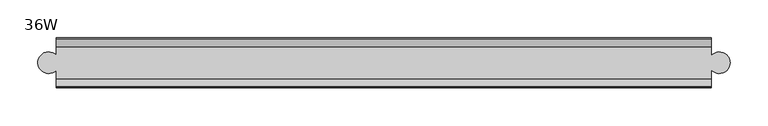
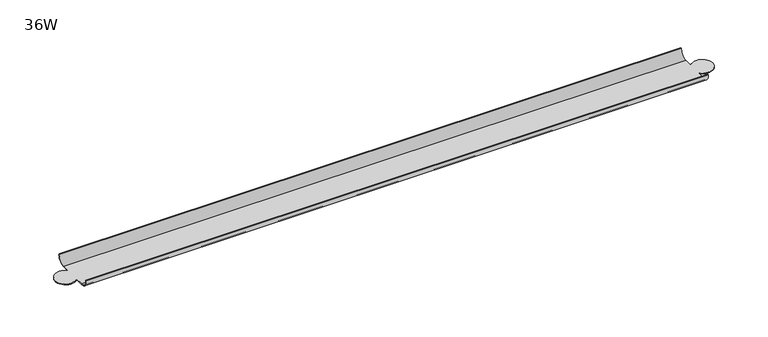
"""IFC4 building model written with IfcOpenShell, lengths in millimetres: furniture geometry, Steelcase - Groupwork - Marker Tray : 36W."""

from ifc_helpers import new_model, si_unit, frame, origin, place, context, project, spatial, polyline, circle_curve, source, transform, mapped, element, save
from ifc_brep_helpers import plane_surface, cylinder_surface, revolved_surface, advanced_brep


def furniture_36w_01fbb189(model_context):
    return source(origin(), model_context, "Body", "AdvancedBrep", [
        advanced_brep(
        [(886.8429397, 212.2245693, 1687.0172), (23.241, 212.2245693, 1687.0172), (23.241, 202.0295313, 1698.4980698), (886.8429397, 202.0295313, 1698.4980698), (23.241, 200.7958824, 1698.4980698), (886.8429397, 200.7958824, 1698.4980698), (23.241, 212.2245693, 1685.798), (886.8429397, 212.2245693, 1685.798), (23.241, 223.9010128, 1685.798), (23.241, 244.1629734, 1685.798), (23.241, 255.3029693, 1685.798), (886.8429397, 255.3029693, 1685.798), (886.8429397, 243.3482016, 1685.798), (886.8429397, 224.7157845, 1685.798), (23.241, 266.7329688, 1698.4980698), (886.8429397, 266.7329688, 1698.4980698), (23.241, 265.5137686, 1698.4980698), (886.8429397, 265.5137686, 1698.4980698), (23.241, 255.3029693, 1687.0172), (886.8429397, 255.3029693, 1687.0172), (886.8429397, 224.7157845, 1687.0172), (886.8429397, 243.3482016, 1687.0172), (23.241, 244.1629734, 1687.0172), (23.241, 223.9010128, 1687.0172)],
        [
            (0, 1),
            (1, 2, circle_curve(frame((23.241, 212.2245693, 1697.2842432), z_axis=(-1.0, 0.0, 0.0), x_axis=(0.0, -1.0, 0.0)), 10.2670432)),
            (2, 3),
            (3, 0, circle_curve(frame((886.8429397, 212.2245693, 1697.2842432), z_axis=(1.0, 0.0, 0.0), x_axis=(0.0, -1.0, 0.0)), 10.2670432)),
            (2, 4),
            (4, 5),
            (5, 3),
            (4, 6, circle_curve(frame((23.241, 212.2245693, 1697.2903249), z_axis=(1.0, 0.0, 0.0), x_axis=(0.0, -1.0, 0.0)), 11.4923249)),
            (6, 7),
            (7, 5, circle_curve(frame((886.8429397, 212.2245693, 1697.2903249), z_axis=(-1.0, 0.0, 0.0), x_axis=(0.0, -1.0, 0.0)), 11.4923249)),
            (6, 8),
            (8, 9, circle_curve(frame((13.2330891, 234.0319931, 1685.798), z_axis=(0.0, 0.0, -1.0), x_axis=(1.0, 0.0, 0.0)), 14.2406124)),
            (9, 10),
            (10, 11),
            (11, 12),
            (12, 13, circle_curve(frame((897.6134226, 234.0319931, 1685.798), z_axis=(0.0, 0.0, -1.0), x_axis=(1.0, 0.0, 0.0)), 14.2406124)),
            (13, 7),
            (10, 14, circle_curve(frame((23.241, 255.3029693, 1697.2915061), z_axis=(1.0, 0.0, 0.0), x_axis=(0.0, -1.0, 0.0)), 11.4935061)),
            (14, 15),
            (15, 11, circle_curve(frame((886.8429397, 255.3029693, 1697.2915061), z_axis=(-1.0, 0.0, 0.0), x_axis=(0.0, -1.0, 0.0)), 11.4935061)),
            (14, 16),
            (16, 17),
            (17, 15),
            (16, 18, circle_curve(frame((23.241, 255.3029693, 1697.29825), z_axis=(-1.0, 0.0, 0.0), x_axis=(0.0, -1.0, 0.0)), 10.28105)),
            (18, 19),
            (19, 17, circle_curve(frame((886.8429397, 255.3029693, 1697.29825), z_axis=(1.0, 0.0, 0.0), x_axis=(0.0, -1.0, 0.0)), 10.28105)),
            (0, 20),
            (20, 21, circle_curve(frame((897.6134226, 234.0319931, 1687.0172), z_axis=(0.0, 0.0, 1.0), x_axis=(1.0, 0.0, 0.0)), 14.2406124)),
            (21, 19),
            (18, 22),
            (22, 23, circle_curve(frame((13.2330891, 234.0319931, 1687.0172), z_axis=(0.0, 0.0, 1.0), x_axis=(1.0, 0.0, 0.0)), 14.2406124)),
            (23, 1),
            (23, 8),
            (22, 9),
            (21, 12),
            (20, 13),
        ],
        [
            revolved_surface(polyline([(23.241, 201.95752610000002, 1697.2842432), (886.8429397, 201.95752610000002, 1697.2842432)]), (-2.159, 212.2245693, 1697.2842432), (-1.0, 0.0, 0.0)),
            plane_surface(frame((912.241, 202.0295313, 1698.4980698), z_axis=(0.0, 0.0, 1.0), x_axis=(-1.0, 0.0, 0.0))),
            cylinder_surface(frame((-2.159, 212.2245693, 1697.2903249), z_axis=(1.0, 0.0, 0.0), x_axis=(0.0, -1.0, 0.0)), 11.4923249),
            plane_surface(frame((912.241, 212.2245693, 1685.798), z_axis=(0.0, 0.0, -1.0), x_axis=(-1.0, 0.0, 0.0))),
            cylinder_surface(frame((-2.159, 255.3029693, 1697.2915061), z_axis=(1.0, 0.0, 0.0), x_axis=(0.0, -1.0, 0.0)), 11.4935061),
            plane_surface(frame((912.241, 266.7329688, 1698.4980698), z_axis=(0.0, 0.0, 1.0), x_axis=(-1.0, 0.0, 0.0))),
            revolved_surface(polyline([(23.241, 245.0219193, 1697.29825), (886.8429397, 245.0219193, 1697.29825)]), (-2.159, 255.3029693, 1697.29825), (-1.0, 0.0, 0.0)),
            plane_surface(frame((912.241, 255.3029693, 1687.0172), z_axis=(0.0, 0.0, 1.0), x_axis=(-1.0, 0.0, 0.0))),
            plane_surface(frame((23.241, 192.9089405, 1948.5186421), z_axis=(-1.0, 0.0, 0.0), x_axis=(0.0, 0.0, -1.0))),
            cylinder_surface(frame((13.2330891, 234.0319931, 0.0), z_axis=(0.0, 0.0, -1.0), x_axis=(1.0, 0.0, 0.0)), 14.2406124),
            plane_surface(frame((23.241, 244.1629734, 1948.5186421), z_axis=(-1.0, 0.0, 0.0), x_axis=(0.0, 0.0, -1.0))),
            plane_surface(frame((886.8429397, 277.7490046, 1948.5186421), z_axis=(1.0, 0.0, 0.0), x_axis=(0.0, 0.0, -1.0))),
            cylinder_surface(frame((897.6134226, 234.0319931, 0.0), z_axis=(0.0, 0.0, -1.0), x_axis=(1.0, 0.0, 0.0)), 14.2406124),
            plane_surface(frame((886.8429397, 224.7157845, 1948.5186421), z_axis=(1.0, 0.0, 0.0), x_axis=(0.0, 0.0, -1.0))),
        ],
        [
            (0, [[1, 2, 3, 4]]),
            (1, [[-3, 5, 6, 7]]),
            (2, [[-6, 8, 9, 10]]),
            (3, [[-9, 11, 12, 13, 14, 15, 16, 17]]),
            (4, [[-14, 18, 19, 20]]),
            (5, [[-19, 21, 22, 23]]),
            (6, [[-22, 24, 25, 26]]),
            (7, [[-1, 27, 28, 29, -25, 30, 31, 32]]),
            (8, [[33, -11, -8, -5, -2, -32]]),
            (9, [[-33, -31, 34, -12]]),
            (10, [[-34, -30, -24, -21, -18, -13]]),
            (11, [[35, -15, -20, -23, -26, -29]]),
            (12, [[-35, -28, 36, -16]]),
            (13, [[-36, -27, -4, -7, -10, -17]]),
        ],
    ),
    ])


if __name__ == "__main__":
    model = new_model("IFC4")
    model_context = context("Model", 3, world=origin())
    ifc_project = project(units=[si_unit("LENGTHUNIT", "METRE", prefix="MILLI")], contexts=[model_context])
    site = spatial("IfcSite", under=ifc_project)
    building = spatial("IfcBuilding", under=site)
    placement = place(None, origin())
    furniture_36w_shape = furniture_36w_01fbb189(model_context)
    element("IfcFurniture", 1, ObjectType="Steelcase - Groupwork - Marker Tray : 36W", at=placement, inside=building, context=model_context, shape_type="MappedRepresentation", body=[
        mapped(furniture_36w_shape, transform((0.0, 0.0, 0.0), x_axis=(1.0, 0.0, 0.0), y_axis=(0.0, 1.0, 0.0), z_axis=(0.0, 0.0, 1.0))),
    ])
    save(model, "model.ifc")
